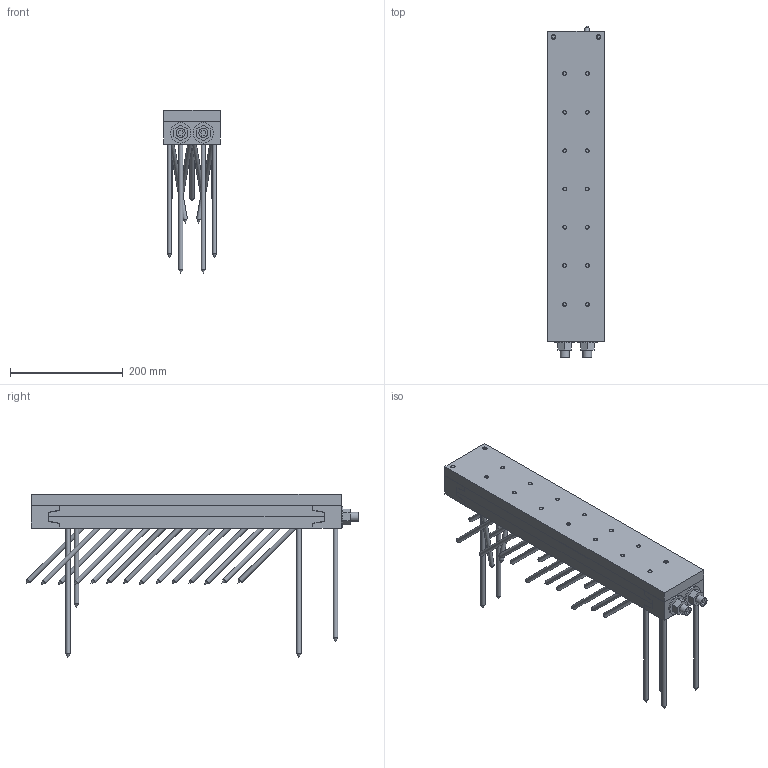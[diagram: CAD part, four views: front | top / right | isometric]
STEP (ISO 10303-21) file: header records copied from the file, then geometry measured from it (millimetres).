
FILE_DESCRIPTION(/* description */ ('Unknown'),/* implementation_level */ '2;1');
FILE_NAME(/* name */ 'MEGANT_550x100x40_Holz-Stahl-Anschluss_Sichtbar',/* time_stamp */ '2022-01-31T16:08:10+01:00',/* author */ ('Unknown'),/* organization */ ('Unknown'),/* preprocessor_version */ 'ST-DEVELOPER v16.7',/* originating_system */ 'Solid Edge',/* authorisation */ 'Unknown');
FILE_SCHEMA (('AUTOMOTIVE_DESIGN {1 0 10303 214 3 1 1}'));
Length unit declared in the file: millimetre
Products named in the file (18): MEGANT_550x100x40_Holz-Stahl-Anschluss_Sichtbar; Verbinderplatte_490x100x20_NT; Verbinderplatte_490x100x20; SK_Schraube_8x240; SK_Schraube_8x160; Verbinderplatte_490x100x20_HT_Stahlanschluss_14xM8x30; Verbinderplatte_490x100x20_Stahlanschluss_14xM8x30; SK_M8x30; Spannbacke_oben_100x50x40_NT; Spannbacke_oben_100x50x40; Spannbacke_unten_100x50x40_HT_2xSKM8x60; Spannbacke_unten_100x50x40; SK_M8x60; Gewindestange_M16_L580; Beilagscheibe_M16; Mutter_M16; Stahlplatte_550x100x20_14xSKM8x30_2xM8x60
Assembly tree (59 placements, depth 3):
  MEGANT_550x100x40_Holz-Stahl-Anschluss_Sichtbar
    Verbinderplatte_490x100x20_NT
      Verbinderplatte_490x100x20
      SK_Schraube_8x240  x4
      SK_Schraube_8x160  x23
    Verbinderplatte_490x100x20_HT_Stahlanschluss_14xM8x30
      Verbinderplatte_490x100x20_Stahlanschluss_14xM8x30
      SK_M8x30  x14
    Spannbacke_oben_100x50x40_NT
      Spannbacke_oben_100x50x40
      SK_Schraube_8x240  x2
    Spannbacke_unten_100x50x40_HT_2xSKM8x60
      Spannbacke_unten_100x50x40
      SK_M8x60  x2
    Gewindestange_M16_L580  x2
      Gewindestange_M16_L580
      Beilagscheibe_M16
      Mutter_M16
    Stahlplatte_550x100x20_14xSKM8x30_2xM8x60
Bounding box: 100 x 589.49 x 290 mm (x, y, z)
Volume: 3346637.4 mm3; surface area: 725780.8 mm2
Topology: 56 solids, 56 shells, 699 faces, 1655 edges, 1037 vertices
Faces by surface type: cylinder 280, plane 261, cone 158
Full cylindrical faces by diameter (mm): 6.647 x32, 8 x45, 8.3 x2, 8.5 x68, 13.835 x2, 14 x4, 15 x83, 16 x16, 17 x18, 36 x2
Entity records: 13361 total; most frequent: DIRECTION 2262, CARTESIAN_POINT 2021, ORIENTED_EDGE 1680, AXIS2_PLACEMENT_3D 907, FACE_BOUND 892, EDGE_LOOP 890, EDGE_CURVE 840, VERTEX_POINT 666
